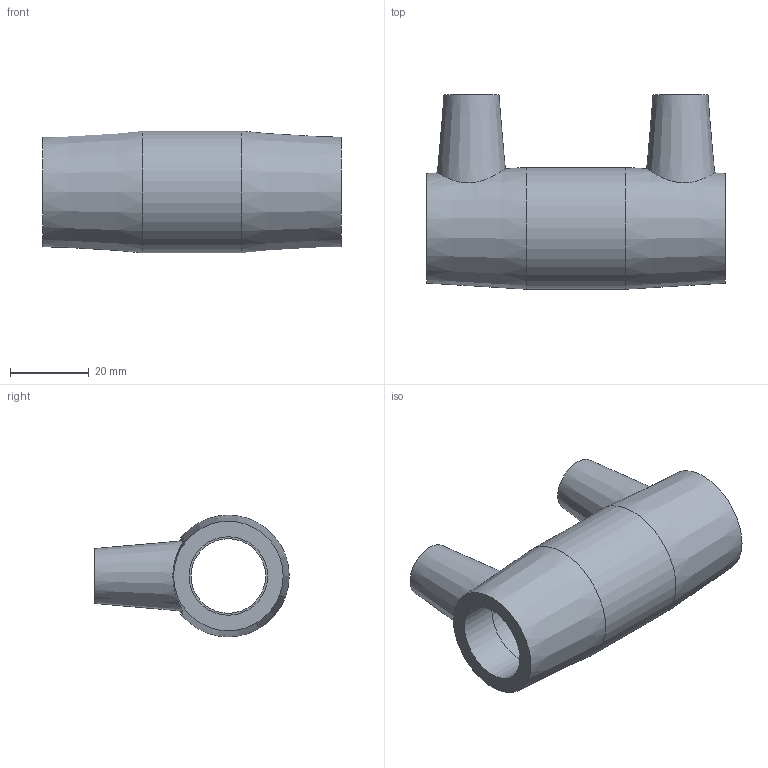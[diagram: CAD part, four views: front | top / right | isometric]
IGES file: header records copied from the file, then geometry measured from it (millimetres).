
Global section: file name: 490104020.ipt; native system: Autodesk Inventor 2015; preprocessor: unknown; author: KIM; date: 20171106.093540; units: millimetre
Bounding box: 76 x 49.5 x 31 mm (x, y, z)
Volume: 35444.9 mm3; surface area: 15799.2 mm2
Topology: 1 solids, 1 shells, 28 faces, 64 edges, 46 vertices
Faces by surface type: plane 12, revolution 9, cone 4, cylinder 3
Full cylindrical faces by diameter (mm): 4 x2, 31 x1
